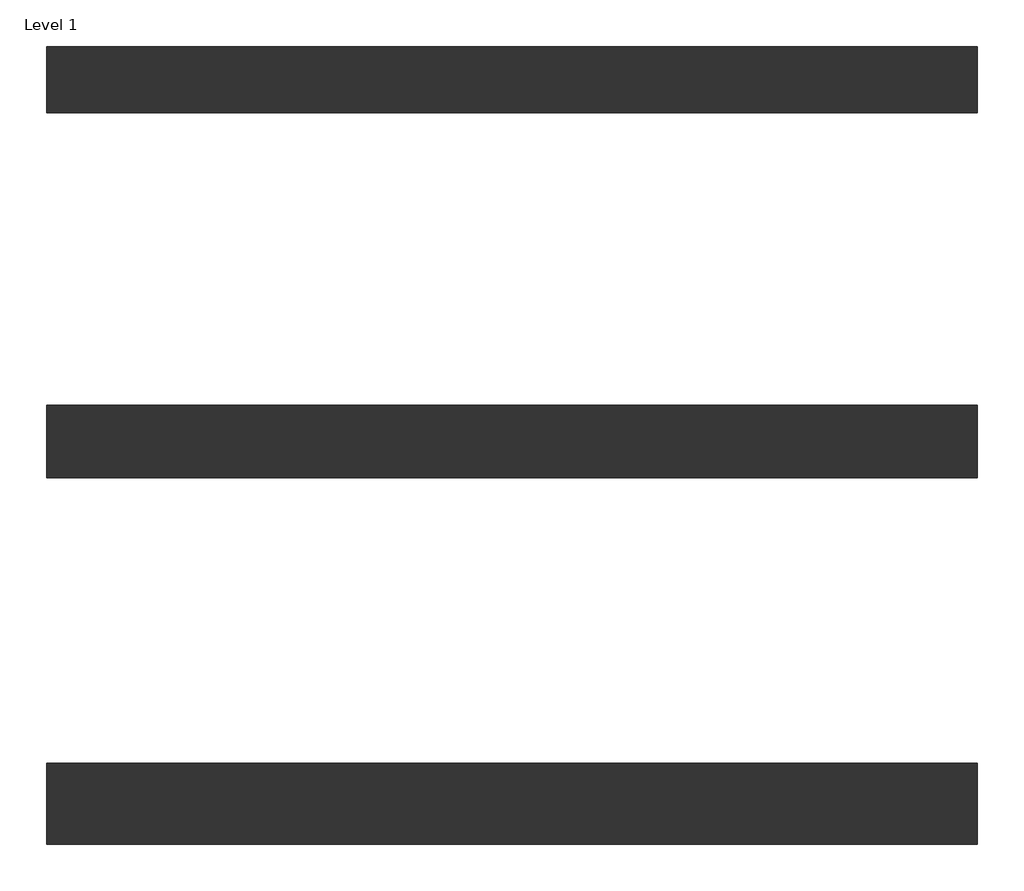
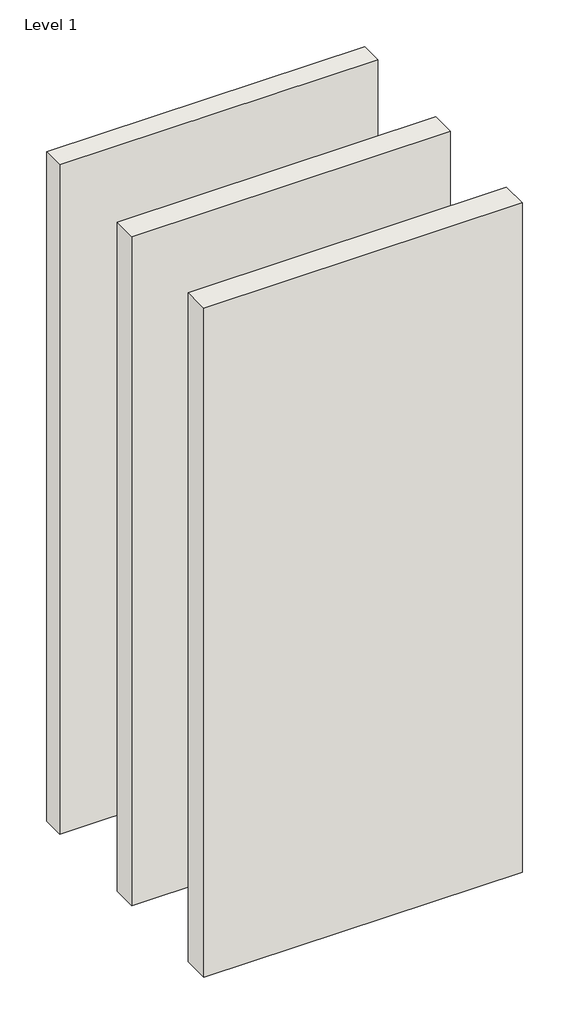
# One storey: 3 walls.
"""IFC4 building model written with IfcOpenShell, lengths in millimetres."""

from ifc_helpers import new_model, si_unit, origin, origin_with_axes, place, context, project, spatial, polyline, outline, extrude, element, save

model = new_model("IFC4")

# Units and contexts
model_context = context("Model", 3, world=origin())
ifc_project = project(units=[si_unit("LENGTHUNIT", "METRE", prefix="MILLI")], contexts=[model_context])

# Site, building, storey
site = spatial("IfcSite", under=ifc_project)
building = spatial("IfcBuilding", under=site)
storey = spatial("IfcBuildingStorey", under=building, Name="Level 1", Elevation=0.0)

# Walls
placement = place(None, origin())
element("IfcWall", 1, ObjectType="Interior-Steel Frame-Laminated Services-CSR7815-128mm", at=placement, inside=storey, context=model_context, shape_type="SweptSolid", body=[
    extrude(outline(polyline([(545.4778569, -1356.9176622), (2345.4778569, -1356.9176622), (2345.4778569, -1484.9176622), (545.4778569, -1484.9176622), (545.4778569, -1356.9176622)])), origin_with_axes(), (0.0, 0.0, 1.0), 4000.0),
])
element("IfcWall", 2, ObjectType="Interior-Steel Frame-Laminated Services-CSR7815-140mm", at=placement, inside=storey, context=model_context, shape_type="SweptSolid", body=[
    extrude(outline(polyline([(545.4778569, -2050.9176622), (2345.4778569, -2050.9176622), (2345.4778569, -2190.9176622), (545.4778569, -2190.9176622), (545.4778569, -2050.9176622)])), origin_with_axes(), (0.0, 0.0, 1.0), 4000.0),
])
element("IfcWall", 3, ObjectType="Interior-Steel Frame-Laminated Services-CSR7815-156mm", at=placement, inside=storey, context=model_context, shape_type="SweptSolid", body=[
    extrude(outline(polyline([(545.4778569, -2742.9176622), (2345.4778569, -2742.9176622), (2345.4778569, -2898.9176622), (545.4778569, -2898.9176622), (545.4778569, -2742.9176622)])), origin_with_axes(), (0.0, 0.0, 1.0), 4000.0),
])

save(model, "model.ifc")
